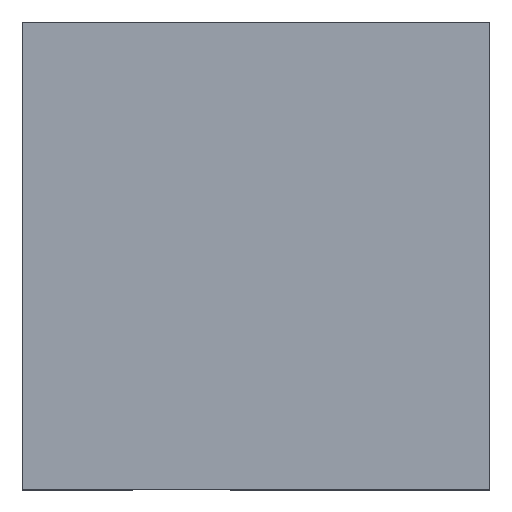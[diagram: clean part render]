
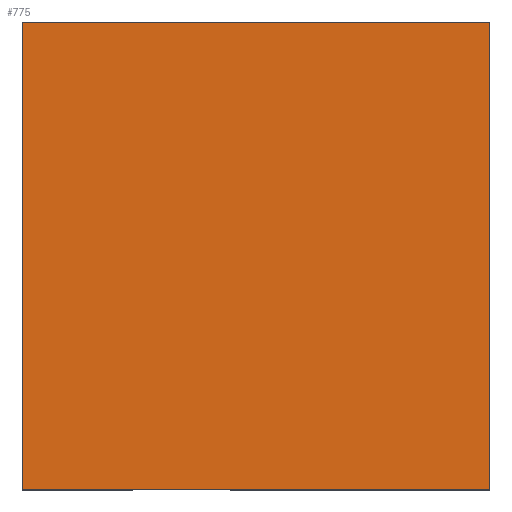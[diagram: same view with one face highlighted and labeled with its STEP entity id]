
A CAD part, top view. The second image highlights one B-rep face of the part: STEP entity #775.
In plain terms, the highlighted planar face has unit normal (0, 0, 1).
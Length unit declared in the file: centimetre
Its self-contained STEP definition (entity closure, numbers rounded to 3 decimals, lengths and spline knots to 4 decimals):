
#28 = VECTOR ( 'NONE', #768, 100. ) ;
#60 = LINE ( 'NONE', #351, #840 ) ;
#89 = DIRECTION ( 'NONE',  ( 1., 0., 0. ) ) ;
#116 = ORIENTED_EDGE ( 'NONE', *, *, #697, .T. ) ;
#130 = CARTESIAN_POINT ( 'NONE',  ( 1000., 0., 1000. ) ) ;
#156 = PLANE ( 'NONE',  #859 ) ;
#167 = DIRECTION ( 'NONE',  ( 0., 1., 0. ) ) ;
#172 = EDGE_LOOP ( 'NONE', ( #443, #510, #552, #116 ) ) ;
#179 = VECTOR ( 'NONE', #780, 100. ) ;
#217 = CARTESIAN_POINT ( 'NONE',  ( 0., 0., 1000. ) ) ;
#224 = LINE ( 'NONE', #423, #28 ) ;
#226 = VERTEX_POINT ( 'NONE', #130 ) ;
#295 = EDGE_CURVE ( 'NONE', #387, #226, #60, .T. ) ;
#331 = VERTEX_POINT ( 'NONE', #554 ) ;
#335 = LINE ( 'NONE', #743, #179 ) ;
#351 = CARTESIAN_POINT ( 'NONE',  ( 0., 0., 1000. ) ) ;
#387 = VERTEX_POINT ( 'NONE', #766 ) ;
#388 = EDGE_CURVE ( 'NONE', #226, #616, #818, .T. ) ;
#406 = CARTESIAN_POINT ( 'NONE',  ( 1000., 1000., 1000. ) ) ;
#423 = CARTESIAN_POINT ( 'NONE',  ( 0., 1000., 1000. ) ) ;
#443 = ORIENTED_EDGE ( 'NONE', *, *, #593, .T. ) ;
#510 = ORIENTED_EDGE ( 'NONE', *, *, #295, .T. ) ;
#549 = DIRECTION ( 'NONE',  ( 1., 0., 0. ) ) ;
#552 = ORIENTED_EDGE ( 'NONE', *, *, #388, .T. ) ;
#554 = CARTESIAN_POINT ( 'NONE',  ( 0., 1000., 1000. ) ) ;
#593 = EDGE_CURVE ( 'NONE', #331, #387, #335, .T. ) ;
#616 = VERTEX_POINT ( 'NONE', #406 ) ;
#649 = CARTESIAN_POINT ( 'NONE',  ( 1000., 1000., 1000. ) ) ;
#697 = EDGE_CURVE ( 'NONE', #616, #331, #224, .T. ) ;
#702 = DIRECTION ( 'NONE',  ( 0., 0., 1. ) ) ;
#723 = VECTOR ( 'NONE', #167, 100. ) ;
#743 = CARTESIAN_POINT ( 'NONE',  ( 0., 1000., 1000. ) ) ;
#766 = CARTESIAN_POINT ( 'NONE',  ( 0., 0., 1000. ) ) ;
#768 = DIRECTION ( 'NONE',  ( -1., 0., 0. ) ) ;
#771 = FACE_OUTER_BOUND ( 'NONE', #172, .T. ) ;
#775 = ADVANCED_FACE ( 'NONE', ( #771 ), #156, .T. ) ;
#780 = DIRECTION ( 'NONE',  ( 0., -1., 0. ) ) ;
#818 = LINE ( 'NONE', #649, #723 ) ;
#840 = VECTOR ( 'NONE', #549, 100. ) ;
#859 = AXIS2_PLACEMENT_3D ( 'NONE', #217, #702, #89 ) ;
